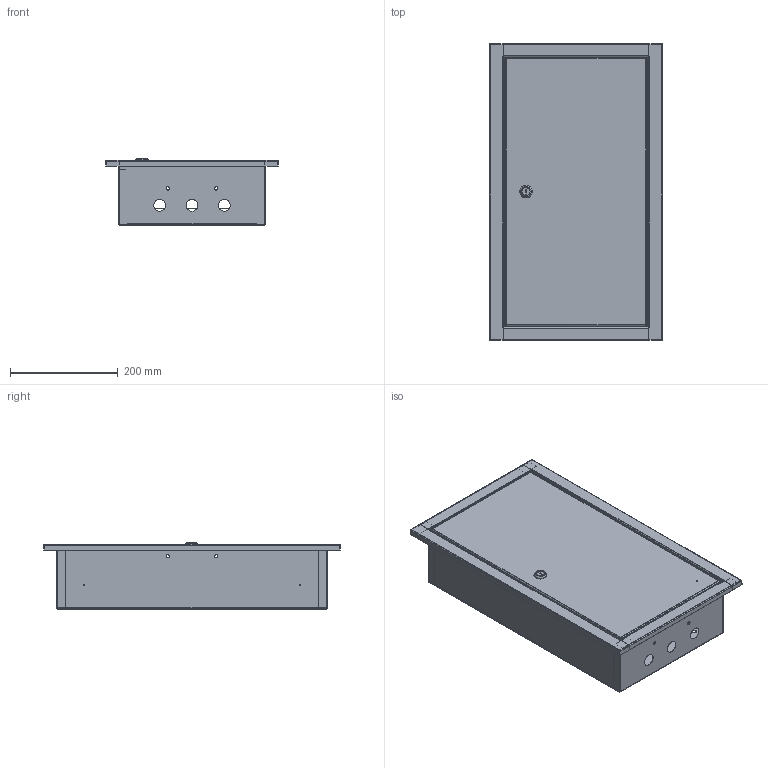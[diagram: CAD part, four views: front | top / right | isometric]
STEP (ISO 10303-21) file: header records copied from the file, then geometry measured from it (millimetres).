
FILE_DESCRIPTION (( 'STEP AP214' ), '1' );
FILE_NAME ('ÙÐÂ-36 IP31 550õ320õ120-ÊÝÀÇ.STEP', '2023-01-24T13:20:48', ( '' ), ( '' ), 'SwSTEP 2.0', 'SolidWorks 2018', '' );
FILE_SCHEMA (( 'AUTOMOTIVE_DESIGN' ));
Length unit declared in the file: millimetre
Products named in the file (1): ÙÐÂ-36 IP31 550õ320õ120-ÊÝÀÇ
Bounding box: 320 x 550 x 125.29 mm (x, y, z)
Surface area: 1155085.8 mm2 (no closed solid volume)
Topology: 0 solids, 52 shells, 278 faces, 1015 edges, 727 vertices
Faces by surface type: plane 121, cylinder 111, sphere 28, bspline 11, cone 7
Entity records: 14344 total; most frequent: CARTESIAN_POINT 2851, DIRECTION 1826, ORIENTED_EDGE 1368, EDGE_CURVE 973, VERTEX_POINT 713, AXIS2_PLACEMENT_3D 666, VECTOR 494, LINE 494
